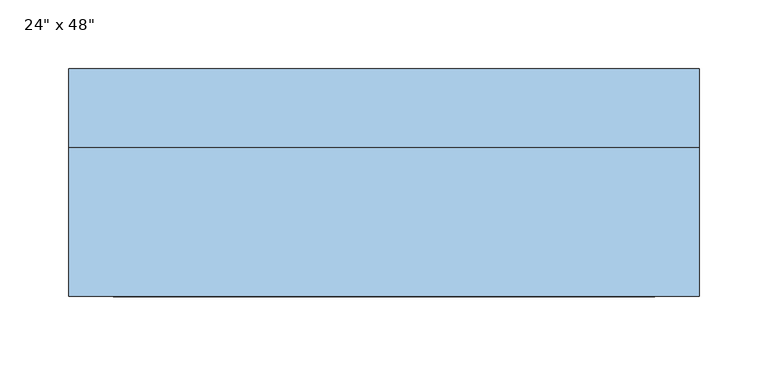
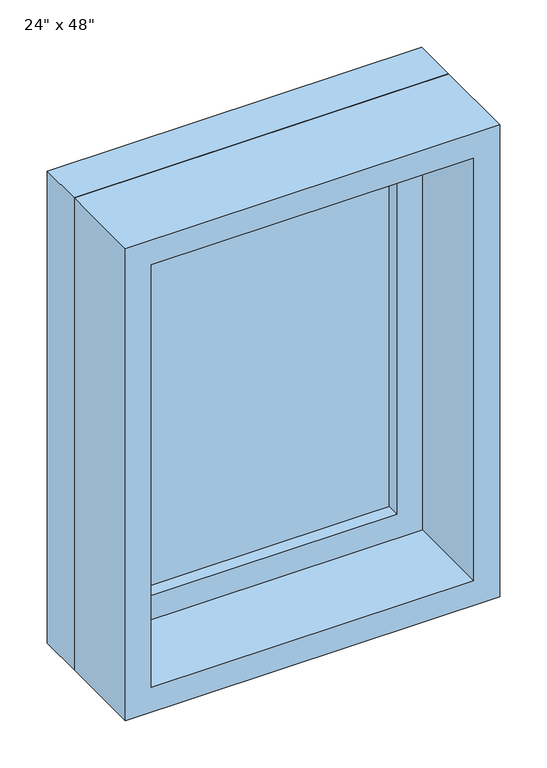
"""IFC4 building model written with IfcOpenShell, lengths in millimetres: window geometry."""

from ifc_helpers import new_model, si_unit, frame, origin, place, context, project, spatial, polyline, outline, extrude, source, transform, mapped, element, save


def window_19ebca55(model_context):
    return source(origin(), model_context, "Body", "SweptSolid", [
        extrude(outline(polyline([(1505.0, -209.6), (933.4, -209.6), (933.4, 209.6), (1505.0, 209.6), (1505.0, -209.6)]), holes=[polyline([(1461.0, -165.6), (1461.0, 165.6), (977.4, 165.6), (977.4, -165.6), (1461.0, -165.6)])]), frame((0.0, 38.85, 0.0), z_axis=(0.0, 1.0, 0.0), x_axis=(0.0, 0.0, 1.0)), (0.0, 0.0, 1.0), 44.0),
        extrude(outline(polyline([(1524.0, -228.6), (914.4, -228.6), (914.4, 228.6), (1524.0, 228.6), (1524.0, -228.6)]), holes=[polyline([(1505.0, -209.6), (1505.0, 209.6), (933.4, 209.6), (933.4, -209.6), (1505.0, -209.6)])]), frame((0.0, 38.85, 0.0), z_axis=(0.0, 1.0, 0.0), x_axis=(0.0, 0.0, 1.0)), (0.0, 0.0, 1.0), 56.7),
        extrude(outline(polyline([(1524.0, -228.6), (914.4, -228.6), (914.4, 228.6), (1524.0, 228.6), (1524.0, -228.6)]), holes=[polyline([(1492.0, -196.6), (1492.0, 196.6), (946.4, 196.6), (946.4, -196.6), (1492.0, -196.6)])]), frame((0.0, -69.55, 0.0), z_axis=(0.0, 1.0, 0.0), x_axis=(0.0, 0.0, 1.0)), (0.0, 0.0, 1.0), 108.4),
        extrude(outline(polyline([(-165.6, 66.85), (165.6, 66.85), (165.6, 54.85), (-165.6, 54.85), (-165.6, 66.85)])), frame((0.0, 0.0, 977.4), z_axis=(0.0, 0.0, 1.0), x_axis=(1.0, 0.0, 0.0)), (0.0, 0.0, 1.0), 483.6),
    ])


if __name__ == "__main__":
    model = new_model("IFC4")
    model_context = context("Model", 3, world=origin())
    ifc_project = project(units=[si_unit("LENGTHUNIT", "METRE", prefix="MILLI")], contexts=[model_context])
    site = spatial("IfcSite", under=ifc_project)
    building = spatial("IfcBuilding", under=site)
    placement = place(None, origin())
    window_shape = window_19ebca55(model_context)
    element("IfcWindow", 1, ObjectType="Planitar-Fixed : 24\" x 48\"", at=placement, inside=building, context=model_context, shape_type="MappedRepresentation", body=[
        mapped(window_shape, transform((0.0, 0.0, 0.0), x_axis=(1.0, 0.0, 0.0), y_axis=(0.0, 1.0, 0.0), z_axis=(0.0, 0.0, 1.0))),
    ])
    save(model, "model.ifc")
